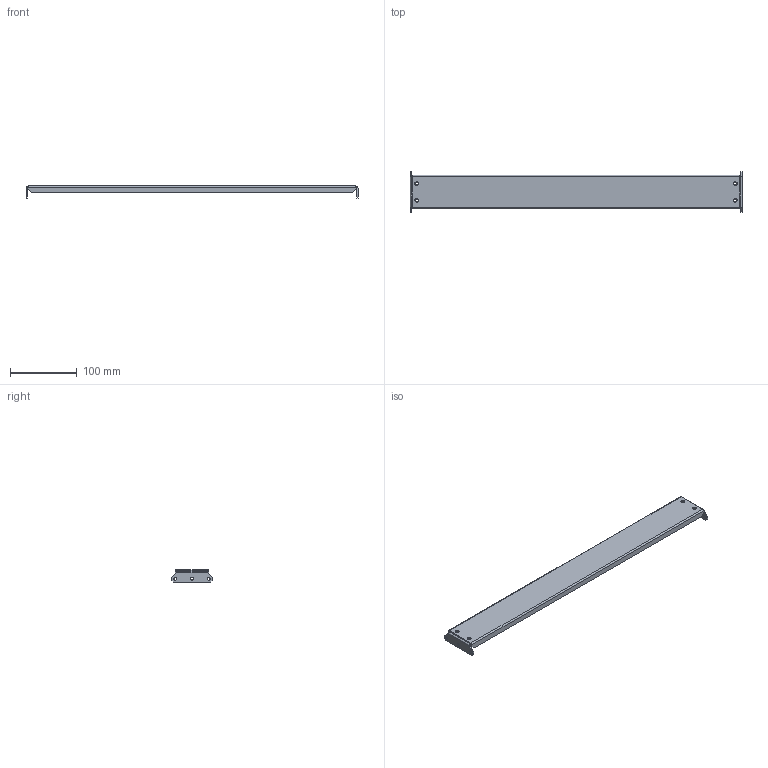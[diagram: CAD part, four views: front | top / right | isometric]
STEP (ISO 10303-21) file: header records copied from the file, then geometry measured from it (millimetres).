
FILE_DESCRIPTION(('CAx-IF Rec.Pracs.---Model Styling and Organization---1.2---2011-12-15','CAx-IF Rec.Pracs.---Geometric and Assembly Validation Properties---4.1---2014-06-16','CAx-IF Rec.Pracs.---PMI Polyline Presentation---2.0---2013-05-24'),'2;1');
FILE_NAME('R5M2BFE1M.stp','2021-05-05T13:00:33+03:00',(''),(''),'STEP Interface 4.4 by CT CoreTechnologie','3D_Evolution4.4 by CT CoreTechnologie','');
FILE_SCHEMA(('AUTOMOTIVE_DESIGN { 1 0 10303 214 1 1 1 1 }'));
Length unit declared in the file: millimetre
Products named in the file (3): R5M2BFE1M; RB.1537.00.00.0; RB.1538.00.00.0
Assembly tree (3 placements, depth 2):
  R5M2BFE1M
    RB.1537.00.00.0  x2
    RB.1538.00.00.0
Bounding box: 496 x 60 x 18.5 mm (x, y, z)
Surface area: 72373.7 mm2 (no closed solid volume)
Topology: 0 solids, 3 shells, 90 faces, 236 edges, 152 vertices
Faces by surface type: plane 50, cylinder 40
Entity records: 2010 total; most frequent: DIRECTION 336, CARTESIAN_POINT 320, ORIENTED_EDGE 312, EDGE_CURVE 156, AXIS2_PLACEMENT_3D 116, VECTOR 104, LINE 104, VERTEX_POINT 100
